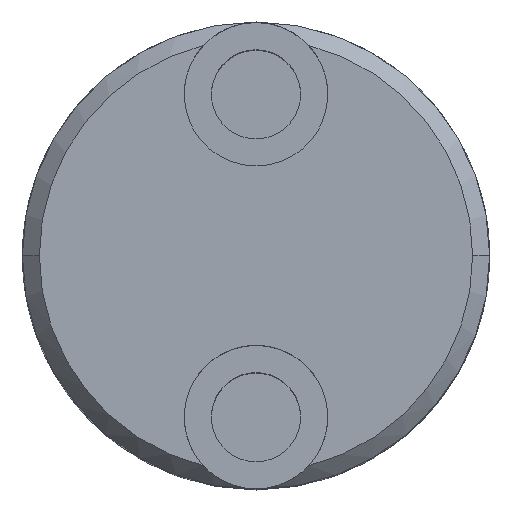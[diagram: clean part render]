
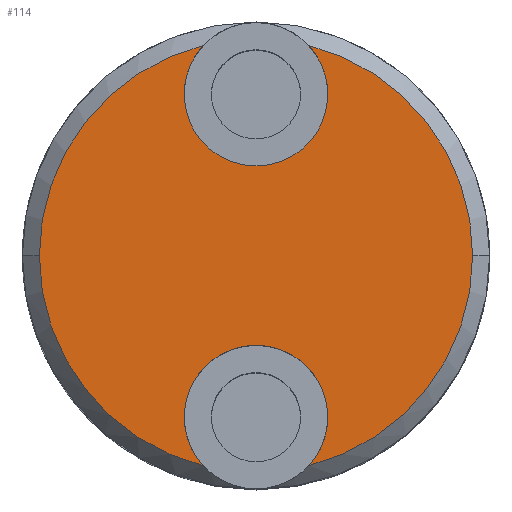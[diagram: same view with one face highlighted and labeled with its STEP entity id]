
A CAD part, top view. The second image highlights one B-rep face of the part: STEP entity #114.
In plain terms, the highlighted planar face has unit normal (0, 0, 1).
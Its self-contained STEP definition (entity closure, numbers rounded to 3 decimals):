
#114=ADVANCED_FACE('',(#173),#172,.T.);
#172=PLANE('',#562);
#173=FACE_OUTER_BOUND('',#563,.T.);
#559=CARTESIAN_POINT('',(30.6,-29.679,25.));
#560=DIRECTION('',(0.,0.,1.));
#561=DIRECTION('',(0.,1.,0.));
#562=AXIS2_PLACEMENT_3D('',#559,#560,#561);
#563=EDGE_LOOP('',(#837,#838,#839,#840,#841,#842,#843,#844,#845,#846));
#837=ORIENTED_EDGE('',*,*,#1016,.T.);
#838=ORIENTED_EDGE('',*,*,#1017,.T.);
#839=ORIENTED_EDGE('',*,*,#1018,.T.);
#840=ORIENTED_EDGE('',*,*,#1019,.T.);
#841=ORIENTED_EDGE('',*,*,#1020,.T.);
#842=ORIENTED_EDGE('',*,*,#1021,.T.);
#843=ORIENTED_EDGE('',*,*,#1022,.T.);
#844=ORIENTED_EDGE('',*,*,#1023,.T.);
#845=ORIENTED_EDGE('',*,*,#1024,.T.);
#846=ORIENTED_EDGE('',*,*,#1025,.T.);
#1016=EDGE_CURVE('',#1153,#1154,#1155,.T.);
#1017=EDGE_CURVE('',#1154,#1161,#1162,.T.);
#1018=EDGE_CURVE('',#1161,#1168,#1169,.T.);
#1019=EDGE_CURVE('',#1168,#1175,#1176,.T.);
#1020=EDGE_CURVE('',#1175,#1182,#1183,.T.);
#1021=EDGE_CURVE('',#1182,#1189,#1190,.T.);
#1022=EDGE_CURVE('',#1189,#1196,#1197,.T.);
#1023=EDGE_CURVE('',#1196,#1203,#1204,.T.);
#1024=EDGE_CURVE('',#1203,#1210,#1211,.T.);
#1025=EDGE_CURVE('',#1210,#1153,#1217,.T.);
#1153=VERTEX_POINT('',#1813);
#1154=VERTEX_POINT('',#1814);
#1155=CIRCLE('',#1818,25.5);
#1161=VERTEX_POINT('',#1819);
#1162=CIRCLE('',#1823,25.5);
#1168=VERTEX_POINT('',#1824);
#1169=CIRCLE('',#1828,8.45);
#1175=VERTEX_POINT('',#1829);
#1176=CIRCLE('',#1833,8.45);
#1182=VERTEX_POINT('',#1834);
#1183=CIRCLE('',#1838,8.45);
#1189=VERTEX_POINT('',#1839);
#1190=CIRCLE('',#1843,25.5);
#1196=VERTEX_POINT('',#1844);
#1197=CIRCLE('',#1848,25.5);
#1203=VERTEX_POINT('',#1849);
#1204=CIRCLE('',#1853,8.45);
#1210=VERTEX_POINT('',#1854);
#1211=CIRCLE('',#1858,8.45);
#1217=CIRCLE('',#1862,8.45);
#1813=CARTESIAN_POINT('',(6.208,-24.733,25.));
#1814=CARTESIAN_POINT('',(25.5,0.,25.));
#1815=CARTESIAN_POINT('',(0.,0.,25.));
#1816=DIRECTION('',(0.,0.,1.));
#1817=DIRECTION('',(0.,-1.,0.));
#1818=AXIS2_PLACEMENT_3D('',#1815,#1816,#1817);
#1819=CARTESIAN_POINT('',(6.208,24.733,25.));
#1820=CARTESIAN_POINT('',(0.,0.,25.));
#1821=DIRECTION('',(0.,0.,1.));
#1822=DIRECTION('',(0.,-1.,0.));
#1823=AXIS2_PLACEMENT_3D('',#1820,#1821,#1822);
#1824=CARTESIAN_POINT('',(8.45,18.999,25.));
#1825=CARTESIAN_POINT('',(0.,19.,25.));
#1826=DIRECTION('',(0.,0.,-1.));
#1827=DIRECTION('',(0.735,0.678,0.));
#1828=AXIS2_PLACEMENT_3D('',#1825,#1826,#1827);
#1829=CARTESIAN_POINT('',(-8.45,19.,25.));
#1830=CARTESIAN_POINT('',(0.,19.,25.));
#1831=DIRECTION('',(0.,0.,-1.));
#1832=DIRECTION('',(0.735,0.678,0.));
#1833=AXIS2_PLACEMENT_3D('',#1830,#1831,#1832);
#1834=CARTESIAN_POINT('',(-6.208,24.733,25.));
#1835=CARTESIAN_POINT('',(0.,19.,25.));
#1836=DIRECTION('',(0.,0.,-1.));
#1837=DIRECTION('',(0.735,0.678,0.));
#1838=AXIS2_PLACEMENT_3D('',#1835,#1836,#1837);
#1839=CARTESIAN_POINT('',(-25.5,0.,25.));
#1840=CARTESIAN_POINT('',(0.,0.,25.));
#1841=DIRECTION('',(0.,0.,1.));
#1842=DIRECTION('',(0.,-1.,0.));
#1843=AXIS2_PLACEMENT_3D('',#1840,#1841,#1842);
#1844=CARTESIAN_POINT('',(-6.208,-24.733,25.));
#1845=CARTESIAN_POINT('',(0.,0.,25.));
#1846=DIRECTION('',(0.,0.,1.));
#1847=DIRECTION('',(0.,-1.,0.));
#1848=AXIS2_PLACEMENT_3D('',#1845,#1846,#1847);
#1849=CARTESIAN_POINT('',(-8.45,-19.,25.));
#1850=CARTESIAN_POINT('',(0.,-19.,25.));
#1851=DIRECTION('',(0.,0.,-1.));
#1852=DIRECTION('',(-0.735,-0.678,0.));
#1853=AXIS2_PLACEMENT_3D('',#1850,#1851,#1852);
#1854=CARTESIAN_POINT('',(8.45,-18.999,25.));
#1855=CARTESIAN_POINT('',(0.,-19.,25.));
#1856=DIRECTION('',(0.,0.,-1.));
#1857=DIRECTION('',(-0.735,-0.678,0.));
#1858=AXIS2_PLACEMENT_3D('',#1855,#1856,#1857);
#1859=CARTESIAN_POINT('',(0.,-19.,25.));
#1860=DIRECTION('',(0.,0.,-1.));
#1861=DIRECTION('',(-0.735,-0.678,0.));
#1862=AXIS2_PLACEMENT_3D('',#1859,#1860,#1861);
